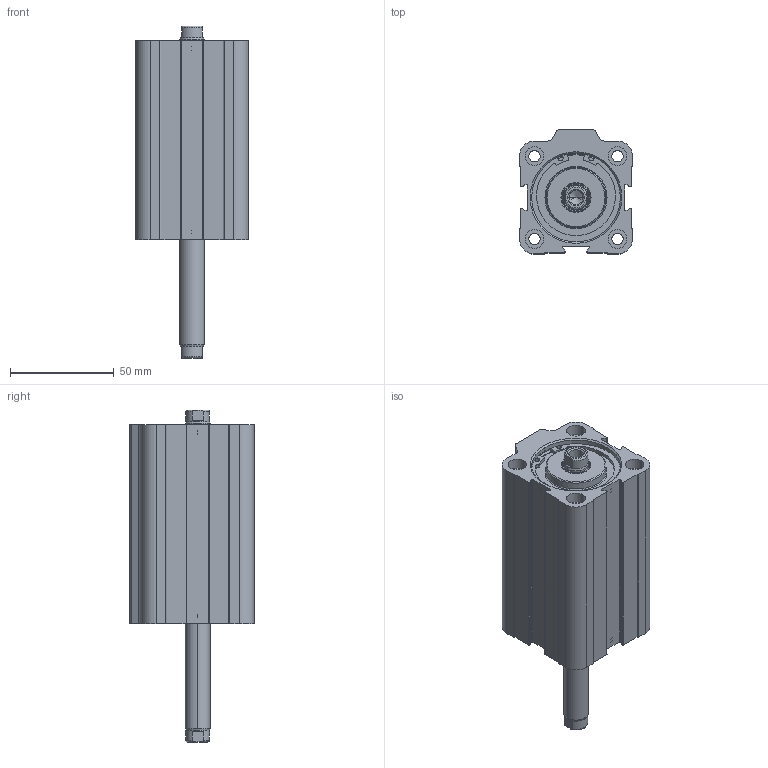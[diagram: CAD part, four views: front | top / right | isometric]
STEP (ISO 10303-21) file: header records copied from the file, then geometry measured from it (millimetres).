
FILE_DESCRIPTION (( 'STEP AP214' ), '1' );
FILE_NAME ('D11M40400050.STEP', '2021-11-02T17:02:50', ( '' ), ( '' ), 'SwSTEP 2.0', 'SolidWorks 2016', '' );
FILE_SCHEMA (( 'AUTOMOTIVE_DESIGN' ));
Length unit declared in the file: millimetre
Products named in the file (6): 000.504.7_22.040.050; 22.D03.000_22.D03.050; Pistone Ø40 corsa breve WEB; TA Ø40 Corsa Breve WEB; D11M40400050; 22.E01.000_22.E01.050
Assembly tree (6 placements, depth 2):
  D11M40400050
    000.504.7_22.040.050
    22.E01.000_22.E01.050
    Pistone Ø40 corsa breve WEB
    TA Ø40 Corsa Breve WEB  x2
    22.D03.000_22.D03.050
Bounding box: 54.5 x 60 x 160.2 mm (x, y, z)
Volume: 205571.1 mm3; surface area: 73179 mm2
Topology: 10 solids, 10 shells, 395 faces, 923 edges, 567 vertices
Faces by surface type: cylinder 161, cone 104, plane 98, torus 32
Entity records: 10673 total; most frequent: CARTESIAN_POINT 1760, DIRECTION 1735, ORIENTED_EDGE 1486, EDGE_CURVE 743, AXIS2_PLACEMENT_3D 696, VERTEX_POINT 465, CIRCLE 372, EDGE_LOOP 362
